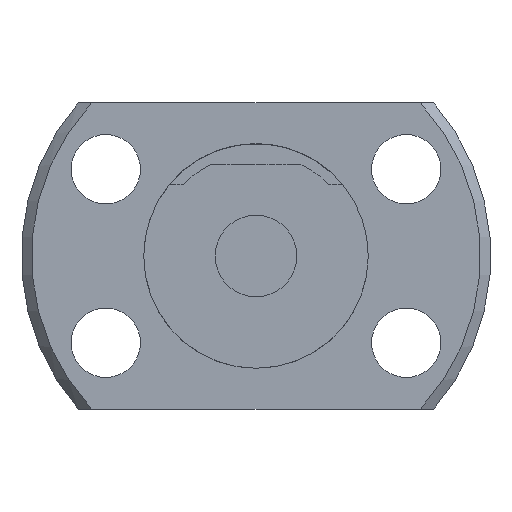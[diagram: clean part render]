
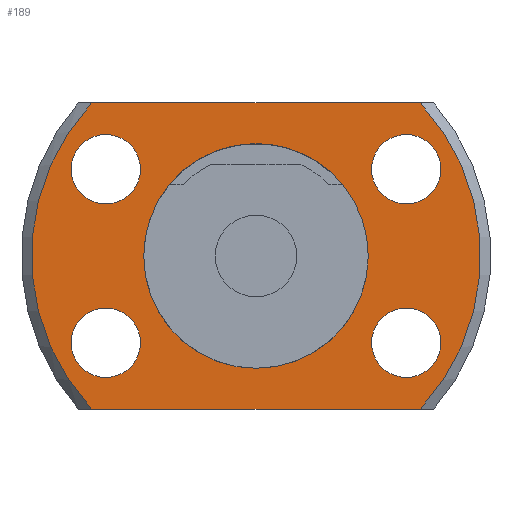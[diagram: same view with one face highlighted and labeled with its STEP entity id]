
A CAD part, left-side view. The second image highlights one B-rep face of the part: STEP entity #189.
In plain terms, the highlighted planar face has unit normal (-1, 0, 0).
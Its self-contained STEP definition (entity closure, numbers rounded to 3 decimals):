
#189 = ADVANCED_FACE( '', ( #265, #266, #267, #268, #269, #270 ), #271, .F. );
#265 = FACE_OUTER_BOUND( '', #377, .T. );
#266 = FACE_BOUND( '', #378, .T. );
#267 = FACE_BOUND( '', #379, .T. );
#268 = FACE_BOUND( '', #380, .T. );
#269 = FACE_BOUND( '', #381, .T. );
#270 = FACE_BOUND( '', #382, .T. );
#271 = PLANE( '', #383 );
#377 = EDGE_LOOP( '', ( #604, #605, #606, #607 ) );
#378 = EDGE_LOOP( '', ( #608 ) );
#379 = EDGE_LOOP( '', ( #609 ) );
#380 = EDGE_LOOP( '', ( #610 ) );
#381 = EDGE_LOOP( '', ( #611 ) );
#382 = EDGE_LOOP( '', ( #612 ) );
#383 = AXIS2_PLACEMENT_3D( '', #613, #614, #615 );
#604 = ORIENTED_EDGE( '', *, *, #820, .F. );
#605 = ORIENTED_EDGE( '', *, *, #814, .T. );
#606 = ORIENTED_EDGE( '', *, *, #861, .F. );
#607 = ORIENTED_EDGE( '', *, *, #857, .T. );
#608 = ORIENTED_EDGE( '', *, *, #862, .T. );
#609 = ORIENTED_EDGE( '', *, *, #863, .T. );
#610 = ORIENTED_EDGE( '', *, *, #864, .T. );
#611 = ORIENTED_EDGE( '', *, *, #865, .T. );
#612 = ORIENTED_EDGE( '', *, *, #866, .T. );
#613 = CARTESIAN_POINT( '', ( 15., 5.3, 0. ) );
#614 = DIRECTION( '', ( 1., 0., 0. ) );
#615 = DIRECTION( '', ( 0., 0., -1. ) );
#814 = EDGE_CURVE( '', #948, #946, #949, .T. );
#820 = EDGE_CURVE( '', #948, #959, #960, .T. );
#857 = EDGE_CURVE( '', #1023, #959, #1024, .T. );
#861 = EDGE_CURVE( '', #1023, #946, #1030, .T. );
#862 = EDGE_CURVE( '', #1031, #1031, #1032, .T. );
#863 = EDGE_CURVE( '', #1033, #1033, #1034, .T. );
#864 = EDGE_CURVE( '', #1035, #1035, #1036, .T. );
#865 = EDGE_CURVE( '', #1037, #1037, #1038, .T. );
#866 = EDGE_CURVE( '', #1039, #1039, #1040, .T. );
#946 = VERTEX_POINT( '', #1171 );
#948 = VERTEX_POINT( '', #1176 );
#949 = LINE( '', #1177, #1178 );
#959 = VERTEX_POINT( '', #1199 );
#960 = CIRCLE( '', #1200, 11. );
#1023 = VERTEX_POINT( '', #1289 );
#1024 = LINE( '', #1290, #1291 );
#1030 = CIRCLE( '', #1304, 11. );
#1031 = VERTEX_POINT( '', #1305 );
#1032 = CIRCLE( '', #1306, 1.7 );
#1033 = VERTEX_POINT( '', #1307 );
#1034 = CIRCLE( '', #1308, 1.7 );
#1035 = VERTEX_POINT( '', #1309 );
#1036 = CIRCLE( '', #1310, 1.7 );
#1037 = VERTEX_POINT( '', #1311 );
#1038 = CIRCLE( '', #1312, 1.7 );
#1039 = VERTEX_POINT( '', #1313 );
#1040 = CIRCLE( '', #1314, 5.3 );
#1171 = CARTESIAN_POINT( '', ( 15., -8.047, -7.5 ) );
#1176 = CARTESIAN_POINT( '', ( 15., 8.047, -7.5 ) );
#1177 = CARTESIAN_POINT( '', ( 15., 5.3, -7.5 ) );
#1178 = VECTOR( '', #1399, 1000. );
#1199 = CARTESIAN_POINT( '', ( 15., 8.047, 7.5 ) );
#1200 = AXIS2_PLACEMENT_3D( '', #1402, #1403, #1404 );
#1289 = CARTESIAN_POINT( '', ( 15., -8.047, 7.5 ) );
#1290 = CARTESIAN_POINT( '', ( 15., 5.3, 7.5 ) );
#1291 = VECTOR( '', #1473, 1000. );
#1304 = AXIS2_PLACEMENT_3D( '', #1475, #1476, #1477 );
#1305 = CARTESIAN_POINT( '', ( 15., -7.361, 2.55 ) );
#1306 = AXIS2_PLACEMENT_3D( '', #1478, #1479, #1480 );
#1307 = CARTESIAN_POINT( '', ( 15., -7.361, -5.95 ) );
#1308 = AXIS2_PLACEMENT_3D( '', #1481, #1482, #1483 );
#1309 = CARTESIAN_POINT( '', ( 15., 7.361, -5.95 ) );
#1310 = AXIS2_PLACEMENT_3D( '', #1484, #1485, #1486 );
#1311 = CARTESIAN_POINT( '', ( 15., 7.361, 2.55 ) );
#1312 = AXIS2_PLACEMENT_3D( '', #1487, #1488, #1489 );
#1313 = CARTESIAN_POINT( '', ( 15., 0., -5.3 ) );
#1314 = AXIS2_PLACEMENT_3D( '', #1490, #1491, #1492 );
#1399 = DIRECTION( '', ( 0., -1., 0. ) );
#1402 = CARTESIAN_POINT( '', ( 15., 0., 0. ) );
#1403 = DIRECTION( '', ( 1., 0., 0. ) );
#1404 = DIRECTION( '', ( 0., 0., -1. ) );
#1473 = DIRECTION( '', ( 0., 1., 0. ) );
#1475 = CARTESIAN_POINT( '', ( 15., 0., 0. ) );
#1476 = DIRECTION( '', ( 1., 0., 0. ) );
#1477 = DIRECTION( '', ( 0., 0., -1. ) );
#1478 = CARTESIAN_POINT( '', ( 15., -7.361, 4.25 ) );
#1479 = DIRECTION( '', ( 1., 0., 0. ) );
#1480 = DIRECTION( '', ( 0., 0., -1. ) );
#1481 = CARTESIAN_POINT( '', ( 15., -7.361, -4.25 ) );
#1482 = DIRECTION( '', ( 1., 0., 0. ) );
#1483 = DIRECTION( '', ( 0., 0., -1. ) );
#1484 = CARTESIAN_POINT( '', ( 15., 7.361, -4.25 ) );
#1485 = DIRECTION( '', ( 1., 0., 0. ) );
#1486 = DIRECTION( '', ( 0., 0., -1. ) );
#1487 = CARTESIAN_POINT( '', ( 15., 7.361, 4.25 ) );
#1488 = DIRECTION( '', ( 1., 0., 0. ) );
#1489 = DIRECTION( '', ( 0., 0., -1. ) );
#1490 = CARTESIAN_POINT( '', ( 15., 0., 0. ) );
#1491 = DIRECTION( '', ( 1., 0., 0. ) );
#1492 = DIRECTION( '', ( 0., 0., -1. ) );
